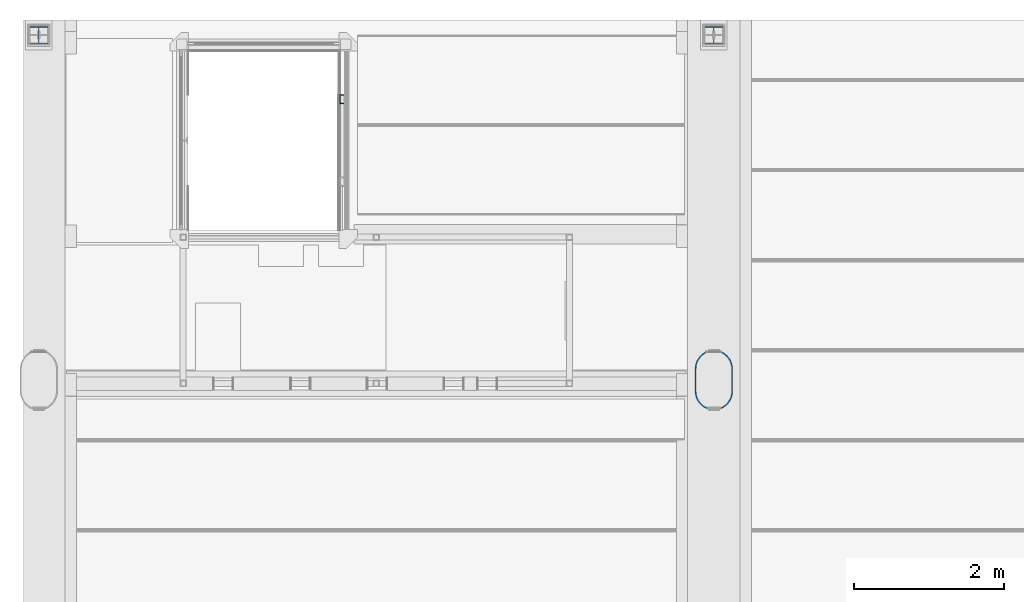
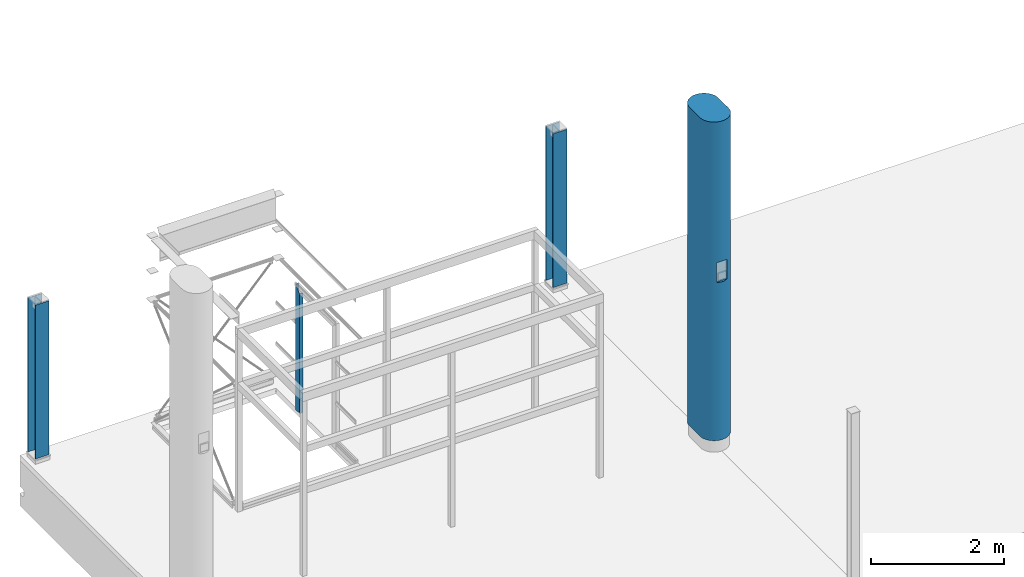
# One storey, part 2 of 15: 4 columns.
"""IFC2X3 building model written with IfcOpenShell, lengths in millimetres."""

import ifcopenshell
import ifcopenshell.guid

model = None  # the IFC model being written
_history = None  # IfcOwnerHistory: only IFC2X3 demands one
_inside = {}  # id of a spatial element -> (the spatial element, [elements in it])
_under = {}  # id of a project, library or spatial element -> (it, [spatial elements below it])
_declared = {}  # id of a project -> (the project, [libraries it declares])
_typed = {}  # id of a type object -> (the type object, [elements of that type])
_made_of = {}  # id of a material, layer set ... -> (it, [elements and type objects made of it])


def new_model(schema):
    """Start an empty IFC model of exactly this schema.

    Asked for "IFC4X3", IfcOpenShell would pick the latest addendum, in which some entities
    have other attributes; the version numbers below select the first issue.
    IFC2X3 requires an IfcOwnerHistory on every rooted entity: one is made here for all.
    """
    global model, _history
    if schema == "IFC4X3":
        model = ifcopenshell.file(schema_version=(4, 3, 0, 0))
    else:
        model = ifcopenshell.file(schema=schema)
    _inside.clear()
    _under.clear()
    _declared.clear()
    _typed.clear()
    _made_of.clear()
    _history = None
    if model.schema == "IFC2X3":
        org = make("IfcOrganization", Name="unknown")
        user = make(
            "IfcPersonAndOrganization",
            ThePerson=make("IfcPerson", FamilyName="unknown"),
            TheOrganization=org,
        )
        app = make(
            "IfcApplication",
            ApplicationDeveloper=org,
            Version="unknown",
            ApplicationFullName="unknown",
            ApplicationIdentifier="unknown",
        )
        _history = make(
            "IfcOwnerHistory",
            OwningUser=user,
            OwningApplication=app,
            ChangeAction="ADDED",
            CreationDate=0,
        )
    return model


def make(cls, **values):
    """One entity of the class cls with the attributes given. An attribute that is None is left unset."""
    return model.create_entity(
        cls, **{name: value for name, value in values.items() if value is not None}
    )


def entity(cls, *values):
    """Any entity or typed value of the class cls, its attributes in the order of the schema. None: left unset."""
    e = model.create_entity(cls)
    for i, value in enumerate(values):
        if value is not None:
            e[i] = value
    return e


def rooted(cls, **values):
    """An entity with a GlobalId (a new one), such as an element, a storey or a relation."""
    return make(cls, GlobalId=ifcopenshell.guid.new(), OwnerHistory=_history, **values)


def si_unit(unit_type, name, prefix=None):
    """IfcSIUnit, for example si_unit("LENGTHUNIT", "METRE", prefix="MILLI")."""
    return make("IfcSIUnit", UnitType=unit_type, Prefix=prefix, Name=name)


def converted_unit(unit_type, name, factor, base, dimensions=None, offset=None):
    """IfcConversionBasedUnit, such as the inch: factor (a typed value) times the base unit."""
    return make(
        "IfcConversionBasedUnit"
        if offset is None
        else "IfcConversionBasedUnitWithOffset",
        ConversionOffset=offset,
        Dimensions=None
        if dimensions is None
        else entity("IfcDimensionalExponents", *dimensions),
        UnitType=unit_type,
        Name=name,
        ConversionFactor=make(
            "IfcMeasureWithUnit", ValueComponent=factor, UnitComponent=base
        ),
    )


def derived_unit(unit_type, elements):
    """IfcDerivedUnit: a product of units, each with its exponent."""
    return make(
        "IfcDerivedUnit",
        Elements=[
            make("IfcDerivedUnitElement", Unit=unit, Exponent=power)
            for unit, power in elements
        ],
        UnitType=unit_type,
    )


def assignment(units):
    """IfcUnitAssignment: the units of a project."""
    return None if units is None else make("IfcUnitAssignment", Units=units)


def point(xyz):
    """IfcCartesianPoint."""
    return None if xyz is None else make("IfcCartesianPoint", Coordinates=xyz)


def direction(xyz):
    """IfcDirection."""
    return None if xyz is None else make("IfcDirection", DirectionRatios=xyz)


def frame(location, z_axis=None, x_axis=None):
    """IfcAxis2Placement3D, a coordinate frame: its origin and axes. An axis left out is left unset."""
    return make(
        "IfcAxis2Placement3D",
        Location=point(location),
        Axis=direction(z_axis),
        RefDirection=direction(x_axis),
    )


def origin_with_axes():
    """The frame at (0, 0, 0) with the z axis (0, 0, 1) and the x axis (1, 0, 0) written out."""
    return frame((0.0, 0.0, 0.0), z_axis=(0.0, 0.0, 1.0), x_axis=(1.0, 0.0, 0.0))


def place(relative_to, where):
    """IfcLocalPlacement: puts the frame where relative to a parent placement (None: the world)."""
    return make(
        "IfcLocalPlacement", PlacementRelTo=relative_to, RelativePlacement=where
    )


def context(
    kind, dimensions, precision=None, world=None, true_north=None, identifier=None
):
    """IfcGeometricRepresentationContext, for example the 3D "Model" context."""
    return make(
        "IfcGeometricRepresentationContext",
        ContextIdentifier=identifier,
        ContextType=kind,
        CoordinateSpaceDimension=dimensions,
        Precision=precision,
        WorldCoordinateSystem=world,
        TrueNorth=true_north,
    )


def subcontext(parent, identifier, kind, view, scale=None):
    """IfcGeometricRepresentationSubContext, for example "Body" below "Model"."""
    return make(
        "IfcGeometricRepresentationSubContext",
        ContextIdentifier=identifier,
        ContextType=kind,
        ParentContext=parent,
        TargetScale=scale,
        TargetView=view,
    )


def project(units=None, contexts=None):
    """IfcProject with its units and contexts."""
    return rooted(
        "IfcProject",
        Name="project",
        RepresentationContexts=contexts,
        UnitsInContext=assignment(units),
    )


def spatial(cls, under=None, at=None, **own):
    """A site, building, storey or space (cls), placed at a placement, below another one or the project."""
    s = rooted(cls, ObjectPlacement=at, **own)
    if under is not None:
        _under.setdefault(under.id(), (under, []))[1].append(s)
    return s


def faces_of(points, faces, orient=None, outer=None):
    """IfcFace entities. A face is a list of loops; a loop is a list of indices into points, from 0.

    orient and outer hold one flag for each loop. By default every Orientation is true, the
    first loop of a face is its IfcFaceOuterBound and the others are IfcFaceBound.
    """
    made = []
    for i, loops in enumerate(faces):
        bounds = []
        for j, loop in enumerate(loops):
            is_outer = j == 0 if outer is None else outer[i][j]
            bounds.append(
                make(
                    "IfcFaceOuterBound" if is_outer else "IfcFaceBound",
                    Bound=make("IfcPolyLoop", Polygon=[points[k] for k in loop]),
                    Orientation=True if orient is None else orient[i][j],
                )
            )
        made.append(make("IfcFace", Bounds=bounds))
    return made


def faceted_brep(points, faces, orient=None, outer=None, voids=None):
    """IfcFacetedBrep: a solid bounded by flat faces; with voids (closed shells), ...WithVoids."""
    shared = [point(p) for p in points]
    hull = make("IfcClosedShell", CfsFaces=faces_of(shared, faces, orient, outer))
    if voids is None:
        return make("IfcFacetedBrep", Outer=hull)
    return make(
        "IfcFacetedBrepWithVoids",
        Outer=hull,
        Voids=[
            make(cls, CfsFaces=faces_of(shared, fs, o, b)) for cls, fs, o, b in voids
        ],
    )


def shape(context_of_items, identifier, shape_type, items):
    """IfcShapeRepresentation: the items that make up one representation, for example the "Body"."""
    return make(
        "IfcShapeRepresentation",
        ContextOfItems=context_of_items,
        RepresentationIdentifier=identifier,
        RepresentationType=shape_type,
        Items=items,
    )


def material(Name=None, Category=None):
    """IfcMaterial."""
    return make("IfcMaterial", Name=Name, Category=Category)


def made_of(thing, what):
    """Note that an element or type object is made of a material, layer set ...; save() writes the relation."""
    if what is not None:
        _made_of.setdefault(what.id(), (what, []))[1].append(thing)
    return thing


def type_object(cls, material=None, **own):
    """A type object (cls), such as IfcWallType, which elements share."""
    return made_of(rooted(cls, **own), material)


def element(
    cls,
    number,
    at=None,
    inside=None,
    cuts=None,
    type_object=None,
    material=None,
    context=None,
    identifier="Body",
    shape_type=None,
    held_by="IfcProductDefinitionShape",
    body=None,
    shapes=None,
    **own,
):
    """One element of the class cls, such as IfcWall. Its Tag is "e" and its number.

    at: its placement. inside: the storey or other place that contains it. cuts: it is an
    opening in that element (IfcRelVoidsElement). A single representation is given by context,
    identifier, shape_type and body (its items); several are given by shapes. held_by: the class
    of the entity that holds the representations. save() writes the other relations.
    """
    e = rooted(cls, Tag="e%d" % number, ObjectPlacement=at, **own)
    if body is not None:
        shapes = [shape(context, identifier, shape_type, body)]
    if shapes is not None:
        e.Representation = make(held_by, Representations=shapes)
    if inside is not None:
        _inside.setdefault(inside.id(), (inside, []))[1].append(e)
    if cuts is not None:
        rooted(
            "IfcRelVoidsElement", RelatingBuildingElement=cuts, RelatedOpeningElement=e
        )
    if type_object is not None:
        _typed.setdefault(type_object.id(), (type_object, []))[1].append(e)
    return made_of(e, material)


def aggregate(whole, parts):
    """IfcRelAggregates: a whole, such as a stair, and the parts it consists of."""
    return rooted("IfcRelAggregates", RelatingObject=whole, RelatedObjects=parts)


def save(model, path):
    """Write the relations noted so far, then the file.

    IfcRelAggregates (storeys below a building ...), IfcRelContainedInSpatialStructure (elements
    in a storey), IfcRelDefinesByType, IfcRelAssociatesMaterial and IfcRelDeclares: one each for
    every whole, place, type object, material and project.
    """
    for whole, parts in _under.values():
        aggregate(whole, parts)
    for where, things in _inside.values():
        rooted(
            "IfcRelContainedInSpatialStructure",
            RelatedElements=things,
            RelatingStructure=where,
        )
    for kind, things in _typed.values():
        rooted("IfcRelDefinesByType", RelatedObjects=things, RelatingType=kind)
    for what, things in _made_of.values():
        rooted("IfcRelAssociatesMaterial", RelatedObjects=things, RelatingMaterial=what)
    for by, libraries in _declared.values():
        rooted("IfcRelDeclares", RelatingContext=by, RelatedDefinitions=libraries)
    model.write(path)


model = new_model("IFC2X3")

# Units and contexts
model_context = context("Model", 3, precision=0.01, world=frame((0.0, 4.29681676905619e-09, 0.0)), true_north=direction((4.01073788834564e-13, 1.0)))
plan_context = context("Plan", 3, precision=0.01, world=frame((0.0, 4.29681676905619e-09, 0.0)), true_north=direction((4.01073788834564e-13, 1.0)))
body_context = subcontext(model_context, "Body", "Model", "MODEL_VIEW")
ifc_project = project(units=[converted_unit("PLANEANGLEUNIT", "DEGREE", entity("IfcPositiveLengthMeasure", 0.0174532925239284), si_unit("PLANEANGLEUNIT", "RADIAN"), dimensions=[0, 0, 0, 0, 0, 0, 0]), si_unit("AREAUNIT", "SQUARE_METRE"), si_unit("LENGTHUNIT", "METRE", prefix="MILLI"), si_unit("MASSUNIT", "GRAM", prefix="KILO"), si_unit("POWERUNIT", "WATT"), si_unit("PRESSUREUNIT", "PASCAL", prefix="KILO"), si_unit("FORCEUNIT", "NEWTON", prefix="KILO"), si_unit("ELECTRICVOLTAGEUNIT", "VOLT"), si_unit("ELECTRICCURRENTUNIT", "AMPERE"), si_unit("THERMODYNAMICTEMPERATUREUNIT", "DEGREE_CELSIUS"), si_unit("TIMEUNIT", "SECOND"), si_unit("VOLUMEUNIT", "CUBIC_METRE"), derived_unit("LINEARVELOCITYUNIT", [(si_unit("LENGTHUNIT", "METRE"), 1), (si_unit("TIMEUNIT", "SECOND"), -1)]), derived_unit("VOLUMETRICFLOWRATEUNIT", [(si_unit("VOLUMEUNIT", "CUBIC_METRE"), 1), (si_unit("TIMEUNIT", "SECOND"), -1)]), derived_unit("THERMALTRANSMITTANCEUNIT", [(si_unit("POWERUNIT", "WATT"), 1), (si_unit("THERMODYNAMICTEMPERATUREUNIT", "KELVIN"), -1), (si_unit("AREAUNIT", "SQUARE_METRE"), -1)]), derived_unit("SOUNDPRESSUREUNIT", [(si_unit("PRESSUREUNIT", "PASCAL"), 1)])], contexts=[model_context, plan_context])

# Site, building, storey
site_placement = place(None, frame((0.0, -4.29681676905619e-09, 0.0), z_axis=(0.0, 0.0, 1.0), x_axis=(1.0, 0.0, 0.0)))
site = spatial("IfcSite", under=ifc_project, at=site_placement, Name="Gardermoen", CompositionType="ELEMENT")
building_placement = place(site_placement, frame((0.0, 4.29681676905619e-09, 0.0), z_axis=(0.0, 0.0, 1.0), x_axis=(1.0, 0.0, 0.0)))
building = spatial("IfcBuilding", under=site, at=building_placement, Name="TG", CompositionType="ELEMENT")
storey_placement = place(building_placement, origin_with_axes())
storey = spatial("IfcBuildingStorey", under=building, at=storey_placement, Name="F", CompositionType="ELEMENT", Elevation=0.0)

# Columns
ifc_material_1 = material(Name="STEEL/S355")
column_type_1 = type_object("IfcColumnType", Name="UNP120", PredefinedType="NOTDEFINED")
column_1_placement = place(storey_placement, frame((326039.374340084, 466444.64509446, 212385.001564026), z_axis=(0.0, 1.0, 0.0), x_axis=(0.0, 0.0, -1.0)))
element("IfcColumn", 1, at=column_1_placement, inside=storey, type_object=column_type_1, material=ifc_material_1, Name="STÅLSØYLE", ObjectType="UNP120", context=body_context, shape_type="Brep", body=[
    faceted_brep([(95.001220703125, 27.5, -60.0), (-24.998779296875, 27.5, 60.0), (2290.0013923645, 27.5, 60.0), (2290.0013923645, 27.5, -60.0), (-24.998779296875, -27.5, 60.0), (2290.0013923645, -27.5, 60.0), (-18.1987792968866, -27.5, 53.2000000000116), (2290.0013923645, -27.5, 53.2000000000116), (-14.358779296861, 20.5, 49.359999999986), (2290.0013923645, 20.5, 49.359999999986), (84.361220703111, 20.5, -49.359999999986), (2290.0013923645, 20.5, -49.359999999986), (88.2012207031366, -27.5, -53.2000000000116), (2290.0013923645, -27.5, -53.2000000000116), (95.001220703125, -27.5, -60.0), (2290.0013923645, -27.5, -60.0)], [[[0, 1, 2, 3]], [[1, 4, 5, 2]], [[4, 6, 7, 5]], [[6, 8, 9, 7]], [[8, 10, 11, 9]], [[10, 12, 13, 11]], [[12, 14, 15, 13]], [[14, 0, 3, 15]], [[5, 7, 9, 11, 13, 15, 3, 2]], [[14, 12, 10, 8, 6, 4, 1, 0]]]),
])
column_type_2 = type_object("IfcColumnType", Name="HEA240", PredefinedType="NOTDEFINED")
for number, where, z_axis, x_axis in (
    (2, (322000.000703, 467300.004375, 210220.0), (0.0, -1.0, 0.0), (0.0, 0.0, 1.0)),
    (3, (330999.999765, 467300.004375, 210220.0), (0.0, -1.0, 0.0), (0.0, 0.0, 1.0)),
):
    element("IfcColumn", number, at=place(storey_placement, frame(where, z_axis=z_axis, x_axis=x_axis)), inside=storey, type_object=column_type_2, material=ifc_material_1, Name="STÅLSØYLE", ObjectType="HEA240", context=body_context, shape_type="Brep", body=[
        faceted_brep([(0.0, 120.0, -115.0), (0.0, 120.0, -103.0), (2827.0, 120.0, -103.0), (2827.0, 120.0, -115.0), (0.0, 3.75, -103.0), (2827.0, 3.75, -103.0), (0.0, 3.75, 103.0), (2827.0, 3.75, 103.0), (0.0, 120.0, 103.0), (2827.0, 120.0, 103.0), (0.0, 120.0, 115.0), (2827.0, 120.0, 115.0), (0.0, -120.0, 115.0), (2827.0, -120.0, 115.0), (0.0, -120.0, 103.0), (2827.0, -120.0, 103.0), (0.0, -3.75, 103.0), (2827.0, -3.75, 103.0), (0.0, -3.75, -103.0), (2827.0, -3.75, -103.0), (0.0, -120.0, -103.0), (2827.0, -120.0, -103.0), (0.0, -120.0, -115.0), (2827.0, -120.0, -115.0)], [[[0, 1, 2, 3]], [[1, 4, 5, 2]], [[4, 6, 7, 5]], [[6, 8, 9, 7]], [[8, 10, 11, 9]], [[10, 12, 13, 11]], [[12, 14, 15, 13]], [[14, 16, 17, 15]], [[16, 18, 19, 17]], [[18, 20, 21, 19]], [[20, 22, 23, 21]], [[22, 0, 3, 23]], [[5, 7, 9, 11, 13, 15, 17, 19, 21, 23, 3, 2]], [[22, 20, 18, 16, 14, 12, 10, 8, 6, 4, 1, 0]]]),
    ])
ifc_material_2 = material(Name="CONCRETE/C45/55")
column_type_3 = type_object("IfcColumnType", Name="AAJOVAL500*800", PredefinedType="NOTDEFINED")
column_2_placement = place(storey_placement, frame((330999.999766, 462700.004375, 210350.0), z_axis=(0.0, -1.0, 0.0), x_axis=(0.0, 0.0, 1.0)))
element("IfcColumn", 4, at=column_2_placement, inside=storey, type_object=column_type_3, material=ifc_material_2, Name="PREFABSØYLE", ObjectType="AAJOVAL500*800", context=body_context, shape_type="Brep", body=[
    faceted_brep([(2947.0, -99.9999999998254, -368.991249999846), (2947.0, 100.000000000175, -368.991249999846), (3297.0, 100.000000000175, -368.991249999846), (3297.0, -99.9999999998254, -368.991249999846), (2947.0, 99.9629609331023, -378.991249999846), (2947.0, -100.037039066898, -378.991249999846), (3297.0, 99.9629609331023, -378.991249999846), (3297.0, -99.9999999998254, -378.991249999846), (5856.0, -52.6698174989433, -394.388809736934), (5856.0, -73.205692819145, -389.041683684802), (3304.17888120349, -73.205692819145, -389.041683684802), (3307.99825695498, -52.6698174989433, -394.388809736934), (5856.0, -31.7544549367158, -397.975108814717), (3310.55989915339, -31.7544549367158, -397.975108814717), (5856.0, -10.6103007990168, -399.77474155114), (3312.0, -10.6103007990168, -399.991249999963), (5856.0, 10.6103007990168, -399.77474155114), (3312.0, 10.6103007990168, -399.77474155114), (5856.0, 31.7544549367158, -397.975108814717), (3310.55989915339, 31.7544549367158, -397.975108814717), (5856.0, 52.6698174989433, -394.388809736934), (3307.99825695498, 52.6698174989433, -394.388809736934), (5856.0, 73.205692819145, -389.041683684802), (3304.17888120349, 73.205692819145, -389.041683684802), (5856.0, 93.2141194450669, -381.972256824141), (3299.12929058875, 93.2141194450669, -381.972256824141), (0.0, 250.0, -150.0), (0.0, 250.0, 150.0), (5856.0, 250.0, 150.0), (5856.0, 250.0, -150.0), (0.0, 249.09937213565, -171.201481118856), (5856.0, 249.09937213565, -171.201481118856), (0.0, 246.403977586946, -192.250205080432), (5856.0, 246.403977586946, -192.250205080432), (0.0, 241.93323673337, -212.994515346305), (5856.0, 241.93323673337, -212.994515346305), (0.0, 235.719361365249, -233.284948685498), (5856.0, 235.719361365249, -233.284948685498), (0.0, 227.807122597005, -252.975312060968), (5856.0, 227.807122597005, -252.975312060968), (0.0, 218.253528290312, -271.923735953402), (5856.0, 218.253528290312, -271.923735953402), (0.0, 207.127412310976, -289.993696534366), (5856.0, 207.127412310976, -289.993696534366), (0.0, 194.508938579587, -307.054999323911), (5856.0, 194.508938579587, -307.054999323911), (0.0, 180.489023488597, -322.984717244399), (5856.0, 180.489023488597, -322.984717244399), (0.0, 165.168680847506, -337.668076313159), (5856.0, 165.168680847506, -337.668076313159), (0.0, 148.658294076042, -350.999282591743), (5856.0, 148.658294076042, -350.999282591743), (0.0, 131.076820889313, -362.882284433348), (5856.0, 131.076820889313, -362.882284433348), (0.0, 112.550936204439, -373.231464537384), (5856.0, 112.550936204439, -373.231464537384), (0.0, 73.205692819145, -389.041683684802), (0.0, 93.2141194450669, -381.972256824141), (2944.87070941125, 93.2141194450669, -381.972256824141), (2939.82111879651, 73.205692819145, -389.041683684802), (0.0, 52.6698174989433, -394.388809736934), (2936.00174304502, 52.6698174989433, -394.388809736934), (0.0, 31.7544549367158, -397.975108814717), (2933.44010084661, 31.7544549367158, -397.975108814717), (0.0, 10.6103007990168, -399.77474155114), (2932.0, 10.6103007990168, -399.77474155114), (0.0, -10.6103007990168, -399.77474155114), (2932.0, -10.6103007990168, -399.77474155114), (0.0, -31.7544549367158, -397.975108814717), (2933.44010084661, -31.7544549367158, -397.975108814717), (0.0, -52.6698174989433, -394.388809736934), (2936.00174304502, -52.6698174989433, -394.388809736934), (0.0, -73.205692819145, -389.041683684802), (2939.82111879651, -73.205692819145, -389.041683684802), (0.0, -93.2141194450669, -381.972256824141), (2944.87070941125, -93.2141194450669, -381.972256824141), (0.0, -52.6698174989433, 394.388809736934), (0.0, -73.205692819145, 389.041683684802), (2907.82736879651, -73.205692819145, 389.041683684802), (2904.00799304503, -52.6698174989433, 394.388809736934), (0.0, -31.7544549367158, 397.975108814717), (2901.44635084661, -31.7544549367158, 397.975108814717), (0.0, -10.6103007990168, 399.77474155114), (2900.0, -10.6103007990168, 399.77474155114), (0.0, 10.6103007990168, 399.77474155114), (2900.0, 10.6103007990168, 399.77474155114), (0.0, 31.7544549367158, 397.975108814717), (2901.44635084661, 31.7544549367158, 397.975108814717), (0.0, 52.6698174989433, 394.388809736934), (2904.00799304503, 52.6698174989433, 394.388809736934), (0.0, 73.205692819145, 389.041683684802), (2907.82736879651, 73.205692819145, 389.041683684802), (0.0, -112.550936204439, -373.231464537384), (0.0, -131.076820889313, -362.882284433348), (0.0, -148.6582940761, -350.999282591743), (0.0, -165.168680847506, -337.668076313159), (0.0, -180.489023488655, -322.984717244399), (0.0, -194.508938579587, -307.054999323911), (0.0, -207.127412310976, -289.993696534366), (0.0, -218.253528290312, -271.923735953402), (0.0, -227.807122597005, -252.975312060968), (0.0, -235.719361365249, -233.284948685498), (0.0, -241.93323673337, -212.994515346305), (0.0, -246.403977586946, -192.250205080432), (0.0, -249.09937213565, -171.201481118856), (0.0, -250.0, -150.0), (0.0, -250.0, 150.0), (0.0, -249.09937213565, 171.201481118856), (0.0, -246.403977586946, 192.250205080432), (0.0, -241.93323673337, 212.994515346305), (0.0, -235.719361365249, 233.284948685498), (0.0, -227.807122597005, 252.975312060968), (0.0, -218.253528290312, 271.923735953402), (0.0, -207.127412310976, 289.993696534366), (0.0, -194.508938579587, 307.054999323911), (0.0, -180.489023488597, 322.984717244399), (0.0, -165.168680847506, 337.668076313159), (0.0, -148.658294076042, 350.999282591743), (0.0, -131.076820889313, 362.882284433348), (0.0, -112.550936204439, 373.231464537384), (0.0, -93.2141194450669, 381.972256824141), (0.0, 93.2141194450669, 381.972256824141), (0.0, 112.550936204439, 373.231464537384), (0.0, 131.076820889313, 362.882284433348), (0.0, 148.6582940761, 350.999282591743), (0.0, 165.168680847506, 337.668076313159), (0.0, 180.489023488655, 322.984717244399), (0.0, 194.508938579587, 307.054999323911), (0.0, 207.127412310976, 289.993696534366), (0.0, 218.253528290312, 271.923735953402), (0.0, 227.807122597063, 252.975312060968), (0.0, 235.719361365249, 233.284948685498), (0.0, 241.93323673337, 212.994515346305), (0.0, 246.403977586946, 192.250205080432), (0.0, 249.09937213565, 171.201481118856), (5856.0, -112.550936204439, -373.231464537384), (5856.0, -131.076820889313, -362.882284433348), (5856.0, -148.6582940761, -350.999282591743), (5856.0, -165.168680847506, -337.668076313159), (5856.0, -180.489023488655, -322.984717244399), (5856.0, -194.508938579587, -307.054999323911), (5856.0, -207.127412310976, -289.993696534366), (5856.0, -218.253528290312, -271.923735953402), (5856.0, -227.807122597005, -252.975312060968), (5856.0, -235.719361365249, -233.284948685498), (5856.0, -241.93323673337, -212.994515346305), (5856.0, -246.403977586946, -192.250205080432), (5856.0, -249.09937213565, -171.201481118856), (5856.0, -250.0, -150.0), (5856.0, -250.0, 150.0), (5856.0, -249.09937213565, 171.201481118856), (5856.0, -246.403977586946, 192.250205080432), (5856.0, -241.93323673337, 212.994515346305), (5856.0, -235.719361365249, 233.284948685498), (5856.0, -227.807122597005, 252.975312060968), (5856.0, -218.253528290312, 271.923735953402), (5856.0, -207.127412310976, 289.993696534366), (5856.0, -194.508938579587, 307.054999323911), (5856.0, -180.489023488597, 322.984717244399), (5856.0, -165.168680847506, 337.668076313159), (5856.0, -148.658294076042, 350.999282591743), (5856.0, -131.076820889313, 362.882284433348), (5856.0, -112.550936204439, 373.231464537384), (5856.0, -93.2141194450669, 381.972256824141), (5856.0, 52.6698174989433, 394.388809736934), (5856.0, 73.205692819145, 389.041683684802), (3272.17263120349, 73.205692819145, 389.041683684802), (3275.99200695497, 52.6698174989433, 394.388809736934), (5856.0, 31.7544549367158, 397.975108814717), (3278.55364915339, 31.7544549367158, 397.975108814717), (5856.0, 10.6103007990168, 399.77474155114), (3280.0, 10.6103007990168, 399.77474155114), (5856.0, -10.6103007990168, 399.77474155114), (3280.0, -10.6103007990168, 400.0), (5856.0, -31.7544549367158, 397.975108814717), (3278.55364915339, -31.7544549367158, 397.975108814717), (5856.0, -52.6698174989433, 394.388809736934), (3275.99200695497, -52.6698174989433, 394.388809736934), (5856.0, -73.205692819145, 389.041683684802), (3272.17263120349, -73.205692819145, 389.041683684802), (2912.49638045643, -91.7061187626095, 382.505067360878), (3267.50361954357, -91.7061187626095, 382.505067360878), (3265.0, -89.9999999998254, 378.999999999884), (2915.0, -90.0370390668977, 378.999999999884), (2912.48037758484, 91.6427092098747, 382.527471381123), (2915.0, 89.9629609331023, 378.999999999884), (3267.51962241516, 91.6427092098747, 382.527471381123), (3265.0, 89.9629609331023, 378.999999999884), (2915.0, 90.0000000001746, 358.999999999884), (2915.0, -89.9999999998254, 358.999999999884), (3265.0, -89.9999999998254, 358.999999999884), (3265.0, 90.0000000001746, 358.999999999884), (5856.0, 93.2141194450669, 381.972256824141), (5856.0, 112.550936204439, 373.231464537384), (5856.0, 131.076820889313, 362.882284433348), (5856.0, 148.6582940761, 350.999282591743), (5856.0, 165.168680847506, 337.668076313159), (5856.0, 180.489023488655, 322.984717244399), (5856.0, 194.508938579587, 307.054999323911), (5856.0, 207.127412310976, 289.993696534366), (5856.0, 218.253528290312, 271.923735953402), (5856.0, 227.807122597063, 252.975312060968), (5856.0, 235.719361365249, 233.284948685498), (5856.0, 241.93323673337, 212.994515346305), (5856.0, 246.403977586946, 192.250205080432), (5856.0, 249.09937213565, 171.201481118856), (5856.0, -93.2141194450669, -381.972256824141), (3299.12929058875, -93.2141194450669, -381.972256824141)], [[[0, 1, 2, 3]], [[4, 1, 0, 5]], [[6, 2, 1, 4]], [[7, 3, 2, 6]], [[5, 0, 3, 7]], [[8, 9, 10, 11]], [[12, 8, 11, 13]], [[14, 12, 13, 15]], [[16, 14, 15, 17]], [[18, 16, 17, 19]], [[20, 18, 19, 21]], [[22, 20, 21, 23]], [[24, 22, 23, 25]], [[26, 27, 28, 29]], [[30, 26, 29, 31]], [[32, 30, 31, 33]], [[34, 32, 33, 35]], [[36, 34, 35, 37]], [[38, 36, 37, 39]], [[40, 38, 39, 41]], [[42, 40, 41, 43]], [[44, 42, 43, 45]], [[46, 44, 45, 47]], [[48, 46, 47, 49]], [[50, 48, 49, 51]], [[52, 50, 51, 53]], [[54, 52, 53, 55]], [[56, 57, 58, 59]], [[60, 56, 59, 61]], [[62, 60, 61, 63]], [[64, 62, 63, 65]], [[66, 64, 65, 67]], [[68, 66, 67, 69]], [[70, 68, 69, 71]], [[72, 70, 71, 73]], [[74, 72, 73, 75]], [[76, 77, 78, 79]], [[80, 76, 79, 81]], [[82, 80, 81, 83]], [[84, 82, 83, 85]], [[86, 84, 85, 87]], [[88, 86, 87, 89]], [[90, 88, 89, 91]], [[26, 30, 32, 34, 36, 38, 40, 42, 44, 46, 48, 50, 52, 54, 57, 56, 60, 62, 64, 66, 68, 70, 72, 74, 92, 93, 94, 95, 96, 97, 98, 99, 100, 101, 102, 103, 104, 105, 106, 107, 108, 109, 110, 111, 112, 113, 114, 115, 116, 117, 118, 119, 120, 77, 76, 80, 82, 84, 86, 88, 90, 121, 122, 123, 124, 125, 126, 127, 128, 129, 130, 131, 132, 133, 134, 27]], [[93, 92, 135, 136]], [[94, 93, 136, 137]], [[95, 94, 137, 138]], [[96, 95, 138, 139]], [[97, 96, 139, 140]], [[98, 97, 140, 141]], [[99, 98, 141, 142]], [[100, 99, 142, 143]], [[101, 100, 143, 144]], [[102, 101, 144, 145]], [[103, 102, 145, 146]], [[104, 103, 146, 147]], [[105, 104, 147, 148]], [[106, 105, 148, 149]], [[107, 106, 149, 150]], [[108, 107, 150, 151]], [[109, 108, 151, 152]], [[110, 109, 152, 153]], [[111, 110, 153, 154]], [[112, 111, 154, 155]], [[113, 112, 155, 156]], [[114, 113, 156, 157]], [[115, 114, 157, 158]], [[116, 115, 158, 159]], [[117, 116, 159, 160]], [[118, 117, 160, 161]], [[119, 118, 161, 162]], [[120, 119, 162, 163]], [[164, 165, 166, 167]], [[168, 164, 167, 169]], [[170, 168, 169, 171]], [[172, 170, 171, 173]], [[174, 172, 173, 175]], [[176, 174, 175, 177]], [[178, 176, 177, 179]], [[180, 78, 77, 120, 163, 178, 179, 181]], [[180, 181, 182, 183]], [[184, 91, 89, 87, 85, 83, 81, 79, 78, 180, 183, 185]], [[186, 184, 185, 187]], [[188, 189, 190, 191]], [[185, 188, 191, 187]], [[183, 189, 188, 185]], [[182, 190, 189, 183]], [[187, 191, 190, 182]], [[181, 179, 177, 175, 173, 171, 169, 167, 166, 186, 187, 182]], [[165, 192, 121, 90, 91, 184, 186, 166]], [[122, 121, 192, 193]], [[123, 122, 193, 194]], [[124, 123, 194, 195]], [[125, 124, 195, 196]], [[126, 125, 196, 197]], [[127, 126, 197, 198]], [[128, 127, 198, 199]], [[129, 128, 199, 200]], [[130, 129, 200, 201]], [[131, 130, 201, 202]], [[132, 131, 202, 203]], [[133, 132, 203, 204]], [[134, 133, 204, 205]], [[27, 134, 205, 28]], [[204, 203, 202, 201, 200, 199, 198, 197, 196, 195, 194, 193, 192, 165, 164, 168, 170, 172, 174, 176, 178, 163, 162, 161, 160, 159, 158, 157, 156, 155, 154, 153, 152, 151, 150, 149, 148, 147, 146, 145, 144, 143, 142, 141, 140, 139, 138, 137, 136, 135, 206, 9, 8, 12, 14, 16, 18, 20, 22, 24, 55, 53, 51, 49, 47, 45, 43, 41, 39, 37, 35, 33, 31, 29, 28, 205]], [[9, 206, 207, 10]], [[25, 23, 21, 19, 17, 15, 13, 11, 10, 207, 7, 6]], [[58, 57, 54, 55, 24, 25, 6, 4]], [[75, 73, 71, 69, 67, 65, 63, 61, 59, 58, 4, 5]], [[207, 206, 135, 92, 74, 75, 5, 7]]]),
])

save(model, "model.ifc")
